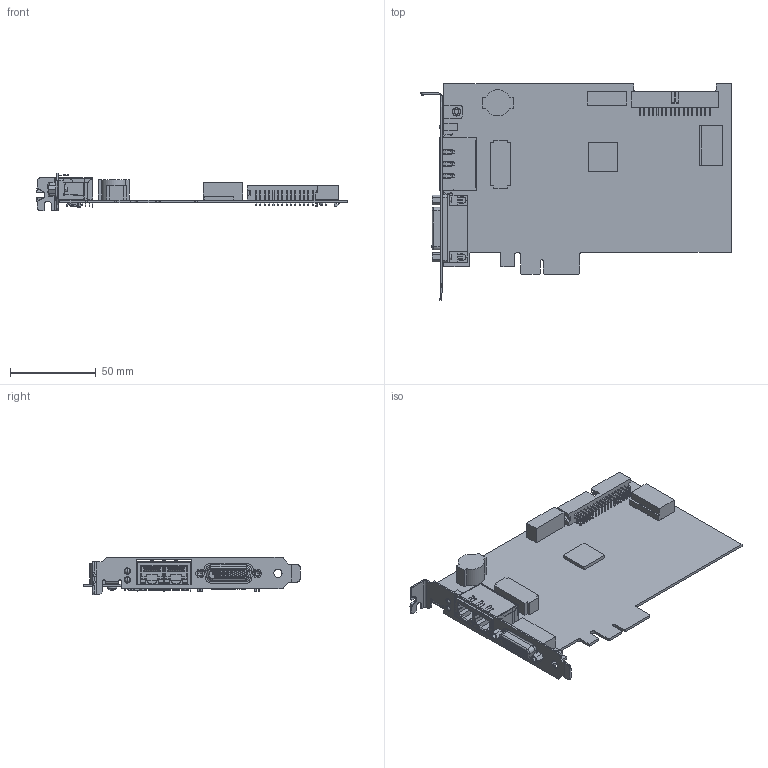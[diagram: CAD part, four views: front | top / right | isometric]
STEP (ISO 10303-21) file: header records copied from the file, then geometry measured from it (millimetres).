
FILE_DESCRIPTION((''),'2;1');
FILE_NAME('CU_PCIE-8237R','2013-03-07T',('dkendric'),(''),'PRO/ENGINEER BY PARAMETRIC TECHNOLOGY CORPORATION, 2011490','PRO/ENGINEER BY PARAMETRIC TECHNOLOGY CORPORATION, 2011490','');
FILE_SCHEMA(('CONFIG_CONTROL_DESIGN'));
Products named in the file (1): CU_PCIE-8237R
Bounding box: 180.92 x 126.32 x 21.59 mm (x, y, z)
Volume: 49415.3 mm3; surface area: 55857 mm2
Topology: 1 solids, 2 shells, 2636 faces, 7034 edges, 4498 vertices
Faces by surface type: plane 2038, cylinder 396, bspline 94, cone 76, extrusion 14, torus 12, sphere 6
Full cylindrical faces by diameter (mm): 2.286 x1
Entity records: 83515 total; most frequent: CARTESIAN_POINT 17602, ORIENTED_EDGE 14052, DIRECTION 12646, EDGE_CURVE 7026, VECTOR 5884, LINE 5870, VERTEX_POINT 4498, AXIS2_PLACEMENT_3D 3381
